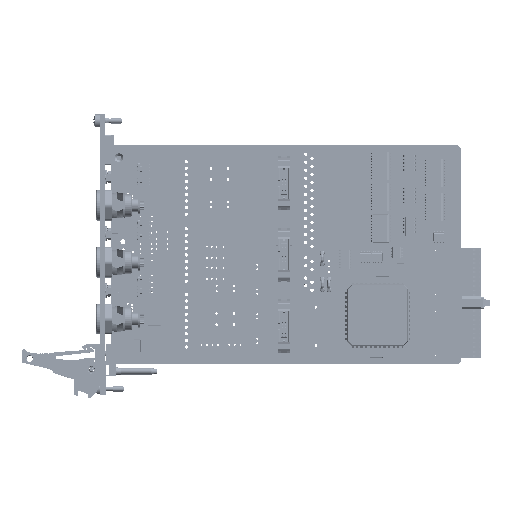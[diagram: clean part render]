
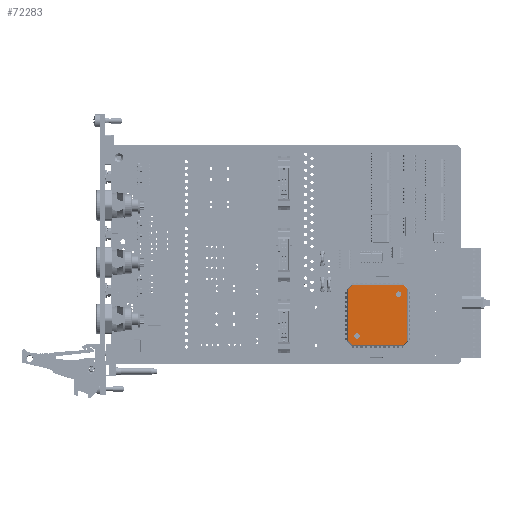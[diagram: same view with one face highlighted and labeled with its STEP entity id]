
A CAD part, top view. The second image highlights one B-rep face of the part: STEP entity #72283.
In plain terms, the highlighted planar face has unit normal (0, 0, 1) as drawn and (0, 1, 0) by its records, which use the part's own axes.
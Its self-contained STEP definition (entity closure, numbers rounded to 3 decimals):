
#3992 = VERTEX_POINT ( 'NONE', #356388 ) ;
#5132 = CIRCLE ( 'NONE', #172163, 1.25 ) ;
#5703 = LINE ( 'NONE', #112879, #81019 ) ;
#6492 = FACE_BOUND ( 'NONE', #260937, .T. ) ;
#7915 = CARTESIAN_POINT ( 'NONE',  ( 11.678, 1.7, 13.678 ) ) ;
#12053 = DIRECTION ( 'NONE',  ( 0., 0., -1. ) ) ;
#12191 = CARTESIAN_POINT ( 'NONE',  ( 9.544, 1.7, -9.544 ) ) ;
#17411 = CIRCLE ( 'NONE', #219072, 1.249 ) ;
#40568 = DIRECTION ( 'NONE',  ( 0., 0., -1. ) ) ;
#51847 = LINE ( 'NONE', #155611, #202800 ) ;
#57967 = EDGE_CURVE ( 'NONE', #215555, #278038, #5703, .T. ) ;
#62101 = AXIS2_PLACEMENT_3D ( 'NONE', #303559, #133660, #332161 ) ;
#63413 = ORIENTED_EDGE ( 'NONE', *, *, #298746, .T. ) ;
#68920 = CARTESIAN_POINT ( 'NONE',  ( -11.678, 1.7, -13.678 ) ) ;
#69586 = ORIENTED_EDGE ( 'NONE', *, *, #329706, .T. ) ;
#72283 = ADVANCED_FACE ( 'NONE', ( #6492, #157302, #299188 ), #335594, .T. ) ;
#77719 = ORIENTED_EDGE ( 'NONE', *, *, #57967, .T. ) ;
#81019 = VECTOR ( 'NONE', #339871, 1000. ) ;
#81903 = LINE ( 'NONE', #358149, #223883 ) ;
#82674 = VERTEX_POINT ( 'NONE', #164507 ) ;
#86953 = DIRECTION ( 'NONE',  ( 0., -1., 0. ) ) ;
#89728 = AXIS2_PLACEMENT_3D ( 'NONE', #109852, #308231, #138311 ) ;
#91176 = CARTESIAN_POINT ( 'NONE',  ( -11.678, 1.7, 13.678 ) ) ;
#93546 = VERTEX_POINT ( 'NONE', #359803 ) ;
#96005 = EDGE_CURVE ( 'NONE', #202144, #275175, #176137, .T. ) ;
#96627 = VERTEX_POINT ( 'NONE', #165207 ) ;
#99168 = DIRECTION ( 'NONE',  ( -0.707, 0., -0.707 ) ) ;
#107958 = CARTESIAN_POINT ( 'NONE',  ( -9.544, 1.7, 8.296 ) ) ;
#109852 = CARTESIAN_POINT ( 'NONE',  ( 26., 1.7, 0. ) ) ;
#112130 = VERTEX_POINT ( 'NONE', #357961 ) ;
#112879 = CARTESIAN_POINT ( 'NONE',  ( -13.544, 1.7, 12. ) ) ;
#127111 = DIRECTION ( 'NONE',  ( -0.707, 0., 0.707 ) ) ;
#127591 = CIRCLE ( 'NONE', #62101, 1.249 ) ;
#133348 = DIRECTION ( 'NONE',  ( 0., 0., -1. ) ) ;
#133368 = ORIENTED_EDGE ( 'NONE', *, *, #166358, .T. ) ;
#133519 = DIRECTION ( 'NONE',  ( -1., 0., 0. ) ) ;
#133660 = DIRECTION ( 'NONE',  ( 0., -1., 0. ) ) ;
#134559 = VECTOR ( 'NONE', #99168, 1000. ) ;
#138311 = DIRECTION ( 'NONE',  ( 0., 0., 1. ) ) ;
#145851 = EDGE_CURVE ( 'NONE', #275175, #93546, #285454, .T. ) ;
#148554 = AXIS2_PLACEMENT_3D ( 'NONE', #12191, #210560, #40568 ) ;
#149212 = DIRECTION ( 'NONE',  ( 0.707, 0., -0.707 ) ) ;
#153208 = ORIENTED_EDGE ( 'NONE', *, *, #186410, .T. ) ;
#155611 = CARTESIAN_POINT ( 'NONE',  ( -12., 1.7, 13.544 ) ) ;
#157302 = FACE_OUTER_BOUND ( 'NONE', #266309, .T. ) ;
#159090 = CARTESIAN_POINT ( 'NONE',  ( 13.544, 1.7, 11.811 ) ) ;
#161975 = CARTESIAN_POINT ( 'NONE',  ( 13.544, 1.7, 12. ) ) ;
#162317 = ORIENTED_EDGE ( 'NONE', *, *, #188042, .T. ) ;
#163106 = VERTEX_POINT ( 'NONE', #313609 ) ;
#164507 = CARTESIAN_POINT ( 'NONE',  ( 9.544, 1.7, -10.794 ) ) ;
#165207 = CARTESIAN_POINT ( 'NONE',  ( -11.811, 1.7, -13.544 ) ) ;
#166064 = CARTESIAN_POINT ( 'NONE',  ( 9.544, 1.7, -8.294 ) ) ;
#166358 = EDGE_CURVE ( 'NONE', #3992, #258310, #127591, .T. ) ;
#166500 = ORIENTED_EDGE ( 'NONE', *, *, #145851, .T. ) ;
#172163 = AXIS2_PLACEMENT_3D ( 'NONE', #256891, #86953, #285349 ) ;
#176137 = LINE ( 'NONE', #161975, #291361 ) ;
#176750 = DIRECTION ( 'NONE',  ( 0.707, 0., 0.707 ) ) ;
#180083 = LINE ( 'NONE', #68920, #322032 ) ;
#181904 = DIRECTION ( 'NONE',  ( 0., -1., 0. ) ) ;
#183705 = ORIENTED_EDGE ( 'NONE', *, *, #363285, .T. ) ;
#186410 = EDGE_CURVE ( 'NONE', #278038, #163106, #363333, .T. ) ;
#188042 = EDGE_CURVE ( 'NONE', #163106, #112130, #51847, .T. ) ;
#202144 = VERTEX_POINT ( 'NONE', #159090 ) ;
#202800 = VECTOR ( 'NONE', #354033, 1000. ) ;
#205101 = ORIENTED_EDGE ( 'NONE', *, *, #356019, .T. ) ;
#210560 = DIRECTION ( 'NONE',  ( 0., -1., 0. ) ) ;
#215555 = VERTEX_POINT ( 'NONE', #309458 ) ;
#217237 = CARTESIAN_POINT ( 'NONE',  ( 13.544, 1.7, -11.811 ) ) ;
#219072 = AXIS2_PLACEMENT_3D ( 'NONE', #351829, #181904, #12053 ) ;
#223883 = VECTOR ( 'NONE', #133519, 1000. ) ;
#230247 = CARTESIAN_POINT ( 'NONE',  ( -13.544, 1.7, 11.811 ) ) ;
#251816 = VERTEX_POINT ( 'NONE', #166064 ) ;
#256891 = CARTESIAN_POINT ( 'NONE',  ( 9.544, 1.7, -9.544 ) ) ;
#258310 = VERTEX_POINT ( 'NONE', #107958 ) ;
#260937 = EDGE_LOOP ( 'NONE', ( #133368, #205101 ) ) ;
#264480 = ORIENTED_EDGE ( 'NONE', *, *, #310455, .T. ) ;
#266309 = EDGE_LOOP ( 'NONE', ( #166500, #306678, #69586, #77719, #153208, #162317, #264480, #319338 ) ) ;
#269021 = CARTESIAN_POINT ( 'NONE',  ( 11.678, 1.7, -13.678 ) ) ;
#275175 = VERTEX_POINT ( 'NONE', #217237 ) ;
#278038 = VERTEX_POINT ( 'NONE', #230247 ) ;
#280139 = LINE ( 'NONE', #7915, #346809 ) ;
#285349 = DIRECTION ( 'NONE',  ( 0., 0., -1. ) ) ;
#285454 = LINE ( 'NONE', #269021, #134559 ) ;
#291361 = VECTOR ( 'NONE', #133348, 1000. ) ;
#298746 = EDGE_CURVE ( 'NONE', #82674, #251816, #5132, .T. ) ;
#299188 = FACE_BOUND ( 'NONE', #314293, .T. ) ;
#303559 = CARTESIAN_POINT ( 'NONE',  ( -9.544, 1.7, 9.544 ) ) ;
#306678 = ORIENTED_EDGE ( 'NONE', *, *, #361781, .T. ) ;
#308231 = DIRECTION ( 'NONE',  ( 0., 1., 0. ) ) ;
#309458 = CARTESIAN_POINT ( 'NONE',  ( -13.544, 1.7, -11.811 ) ) ;
#310455 = EDGE_CURVE ( 'NONE', #112130, #202144, #280139, .T. ) ;
#313609 = CARTESIAN_POINT ( 'NONE',  ( -11.811, 1.7, 13.544 ) ) ;
#314293 = EDGE_LOOP ( 'NONE', ( #183705, #63413 ) ) ;
#319338 = ORIENTED_EDGE ( 'NONE', *, *, #96005, .T. ) ;
#322001 = CIRCLE ( 'NONE', #148554, 1.25 ) ;
#322032 = VECTOR ( 'NONE', #127111, 1000. ) ;
#329706 = EDGE_CURVE ( 'NONE', #96627, #215555, #180083, .T. ) ;
#332161 = DIRECTION ( 'NONE',  ( 0., 0., -1. ) ) ;
#335594 = PLANE ( 'NONE',  #89728 ) ;
#339871 = DIRECTION ( 'NONE',  ( 0., 0., 1. ) ) ;
#346809 = VECTOR ( 'NONE', #149212, 1000. ) ;
#351829 = CARTESIAN_POINT ( 'NONE',  ( -9.544, 1.7, 9.544 ) ) ;
#354033 = DIRECTION ( 'NONE',  ( 1., 0., 0. ) ) ;
#354404 = VECTOR ( 'NONE', #176750, 1000. ) ;
#356019 = EDGE_CURVE ( 'NONE', #258310, #3992, #17411, .T. ) ;
#356388 = CARTESIAN_POINT ( 'NONE',  ( -9.544, 1.7, 10.793 ) ) ;
#357961 = CARTESIAN_POINT ( 'NONE',  ( 11.811, 1.7, 13.544 ) ) ;
#358149 = CARTESIAN_POINT ( 'NONE',  ( -12., 1.7, -13.544 ) ) ;
#359803 = CARTESIAN_POINT ( 'NONE',  ( 11.811, 1.7, -13.544 ) ) ;
#361781 = EDGE_CURVE ( 'NONE', #93546, #96627, #81903, .T. ) ;
#363285 = EDGE_CURVE ( 'NONE', #251816, #82674, #322001, .T. ) ;
#363333 = LINE ( 'NONE', #91176, #354404 ) ;
